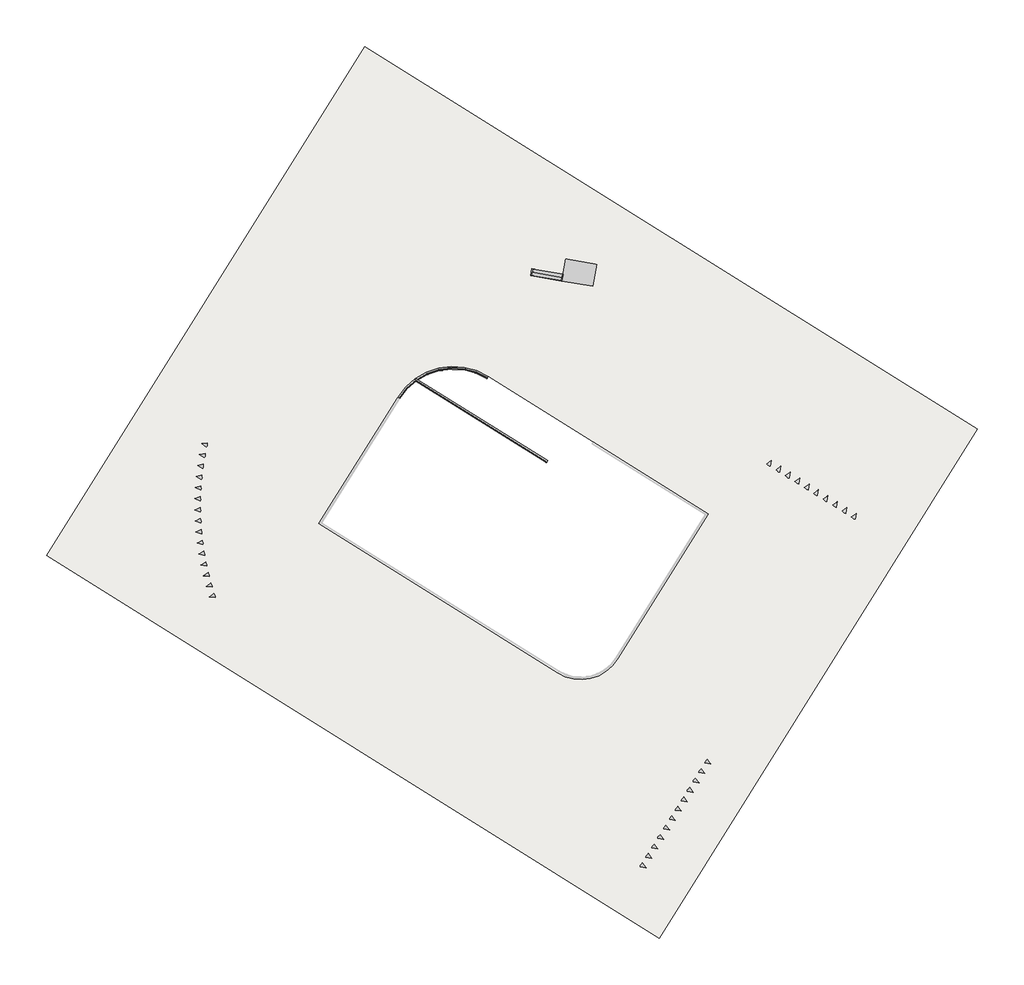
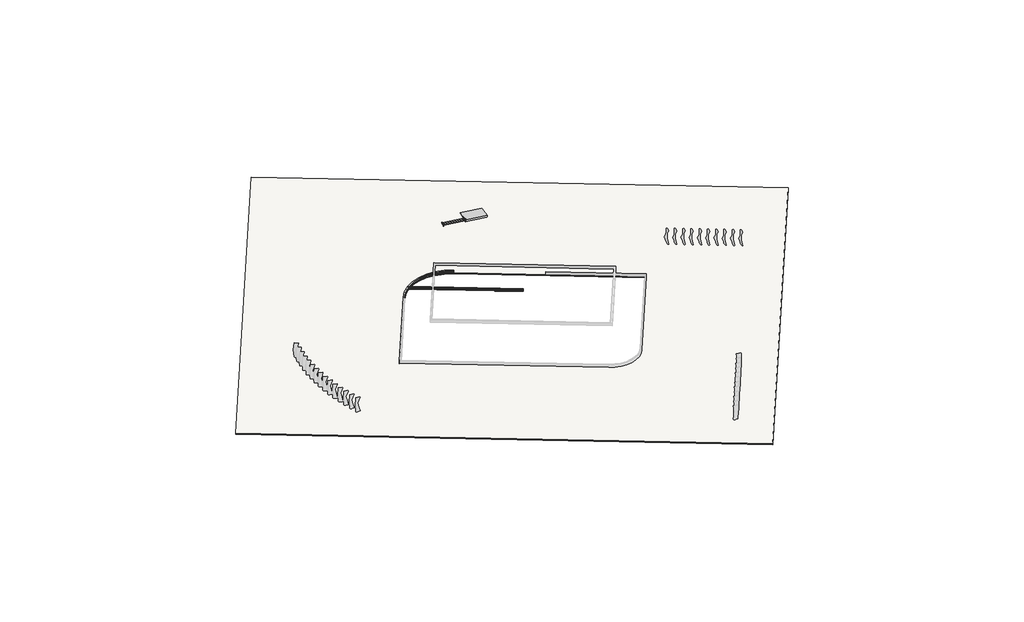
# One storey, part 2 of 2: 2 members, 2 proxies, 1 slab, 1 stair flight.
"""IFC4 building model written with IfcOpenShell, lengths in millimetres."""

from ifc_helpers import new_model, si_unit, point, frame, frame_2d, origin, place, context, project, spatial, polyline, circle_curve, ellipse_curve, trimmed, segment, composite_curve, outline, extrude, transform, mapped, element, save
from ifc_brep_helpers import plane_surface, cylinder_surface, revolved_surface, advanced_brep
from components import proxy_521487_521487_4b87c70a, stair_flight_50mm_tread_13mm_riser_88d25fb5

model = new_model("IFC4")

# Units and contexts
model_context = context("Model", 3, world=origin())
ifc_project = project(units=[si_unit("LENGTHUNIT", "METRE", prefix="MILLI")], contexts=[model_context])

# Site, building, storey
site = spatial("IfcSite", under=ifc_project)
building = spatial("IfcBuilding", under=site)
storey = spatial("IfcBuildingStorey", under=building, Name="\u200fمحوطه", Elevation=-300.0)

# Proxies
placement = place(None, origin())
proxy_521487_521487_shape = proxy_521487_521487_4b87c70a(model_context)
element("IfcBuildingElementProxy", 1, Name="521487 : 521487", ObjectType="521487 : 521487", at=placement, inside=storey, context=model_context, shape_type="MappedRepresentation", body=[
    mapped(proxy_521487_521487_shape, transform((0.0, 0.0, 0.0), x_axis=(1.0, 0.0, 0.0), y_axis=(0.0, 1.0, 0.0), z_axis=(0.0, 0.0, 1.0))),
])
element("IfcBuildingElementProxy", 2, Name="Slab Edge", ObjectType="Slab Edge", at=placement, inside=storey, context=model_context, shape_type="AdvancedBrep", body=[
    advanced_brep(
    [(22452.9728268, -22856.1682651, -298.6943652), (22344.4799576, -23029.7931497, -129.4403417), (22355.0834808, -23012.8239655, -49.7250187), (22360.1589587, -23004.7015029, -40.1471863), (22378.7841298, -22974.8949985, 44.7056275), (22378.7841298, -22974.8949985, 89.2842506), (22452.9728268, -22856.1682651, 89.2842506), (34308.7475235, -30264.4785162, -298.6943652), (34308.7475235, -30264.4785162, 89.2842506), (34234.5588265, -30383.2052496, 89.2842506), (34234.5588265, -30383.2052496, 44.7056275), (34215.9336554, -30413.011754, -40.1471863), (34210.8581775, -30421.1342166, -49.7250187), (34200.2546543, -30438.1034008, -129.4403417)],
    [
        (0, 1, circle_curve(frame((22466.2208084, -22834.9670627, -60.0), z_axis=(-0.848048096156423, 0.52991926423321, 0.0), x_axis=(-0.52991926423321, -0.848048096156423, 0.0)), 240.0)),
        (1, 2, circle_curve(frame((22385.0602412, -22964.8511207, -106.2935612), z_axis=(-0.848048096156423, 0.52991926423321, 0.0), x_axis=(-0.52991926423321, -0.848048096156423, 0.0)), 80.0)),
        (2, 3),
        (3, 4, circle_curve(frame((22315.1938181, -23076.6607701, 44.7056275), z_axis=(0.848048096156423, -0.52991926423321, 0.0), x_axis=(-0.52991926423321, -0.848048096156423, 0.0)), 120.0)),
        (4, 5),
        (5, 6),
        (6, 0),
        (7, 8),
        (8, 9),
        (9, 10),
        (10, 11, circle_curve(frame((34170.9685148, -30484.9710212, 44.7056275), z_axis=(-0.848048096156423, 0.52991926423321, 0.0), x_axis=(-0.52991926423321, -0.848048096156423, 0.0)), 120.0)),
        (11, 12),
        (12, 13, circle_curve(frame((34240.8349379, -30373.1613718, -106.2935612), z_axis=(0.848048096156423, -0.52991926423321, 0.0), x_axis=(-0.52991926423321, -0.848048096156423, 0.0)), 80.0)),
        (13, 7, circle_curve(frame((34321.9955051, -30243.2773138, -60.0), z_axis=(0.848048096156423, -0.52991926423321, 0.0), x_axis=(-0.52991926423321, -0.848048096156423, 0.0)), 240.0)),
        (0, 7),
        (13, 1),
        (12, 2),
        (11, 3),
        (10, 4),
        (9, 5),
        (8, 6),
    ],
    [
        plane_surface(frame((22452.9728268, -22856.1682651, -713.6933982), z_axis=(-0.8480480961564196, 0.5299192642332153, 0.0), x_axis=(0.5299192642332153, 0.8480480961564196, 0.0))),
        plane_surface(frame((34308.7475235, -30264.4785162, -713.6933982), z_axis=(0.8480480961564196, -0.5299192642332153, 0.0), x_axis=(0.5299192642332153, 0.8480480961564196, 0.0))),
        cylinder_surface(frame((22466.2208084, -22834.9670627, -60.0), z_axis=(-0.848048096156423, 0.52991926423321, 0.0), x_axis=(-0.52991926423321, -0.848048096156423, 0.0)), 240.0),
        cylinder_surface(frame((22385.0602412, -22964.8511207, -106.2935612), z_axis=(-0.848048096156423, 0.52991926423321, 0.0), x_axis=(-0.52991926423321, -0.848048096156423, 0.0)), 80.0),
        plane_surface(frame((22355.0834808, -23012.8239655, -49.7250187), z_axis=(-0.3747095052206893, -0.599660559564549, 0.7071067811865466), x_axis=(0.848048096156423, -0.52991926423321, 0.0))),
        revolved_surface(polyline([(34107.37820308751, -30586.736792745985, 44.7056275), (22251.603506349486, -23178.426541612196, 44.7056275)]), (22315.1938181, -23076.6607701, 44.7056275), (0.848048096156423, -0.52991926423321, 0.0)),
        plane_surface(frame((22378.7841298, -22974.8949985, 44.7056275), z_axis=(-0.52991926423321, -0.848048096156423, 0.0), x_axis=(0.848048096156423, -0.52991926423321, 0.0))),
        plane_surface(frame((22378.7841298, -22974.8949985, 89.2842506), z_axis=(0.0, 0.0, 1.0000000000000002), x_axis=(0.848048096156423, -0.52991926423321, 0.0))),
        plane_surface(frame((22452.9728268, -22856.1682651, 89.2842506), z_axis=(0.52991926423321, 0.848048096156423, 0.0), x_axis=(0.848048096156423, -0.52991926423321, 0.0))),
    ],
    [
        (0, [[1, 2, 3, 4, 5, 6, 7]]),
        (1, [[8, 9, 10, 11, 12, 13, 14]]),
        (2, [[-1, 15, -14, 16]]),
        (3, [[-2, -16, -13, 17]]),
        (4, [[-3, -17, -12, 18]]),
        (5, [[-4, -18, -11, 19]]),
        (6, [[-5, -19, -10, 20]]),
        (7, [[-6, -20, -9, 21]]),
        (8, [[-7, -21, -8, -15]]),
    ],
),
    advanced_brep(
    [(28968.3234538, -22682.3689368, -298.6943652), (28968.3234538, -22682.3689368, 89.2842506), (28894.1347568, -22801.0956702, 89.2842506), (28894.1347568, -22801.0956702, 44.7056275), (28875.5095858, -22830.9021746, -40.1471863), (28870.4341079, -22839.0246372, -49.7250187), (28859.8305847, -22855.9938214, -129.4403417), (21011.9409122, -24667.8219143, -129.4403417), (20838.3160275, -24559.3290451, -298.6943652), (20994.9717279, -24657.2183911, -49.7250187), (20986.8492654, -24652.1429132, -40.1471863), (20957.042761, -24633.5177421, 44.7056275), (20957.042761, -24633.5177421, 89.2842506), (20838.3160275, -24559.3290451, 89.2842506)],
    [
        (0, 1),
        (1, 2),
        (2, 3),
        (3, 4, circle_curve(frame((28830.5444451, -22902.8614418, 44.7056275), z_axis=(-0.8480480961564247, 0.529919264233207, 0.0), x_axis=(-0.529919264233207, -0.8480480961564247, 0.0)), 120.0)),
        (4, 5),
        (5, 6, circle_curve(frame((28900.4108683, -22791.0517924, -106.2935612), z_axis=(0.8480480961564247, -0.529919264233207, 0.0), x_axis=(-0.529919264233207, -0.8480480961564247, 0.0)), 80.0)),
        (6, 0, circle_curve(frame((28981.5714354, -22661.1677344, -60.0), z_axis=(0.8480480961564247, -0.529919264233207, 0.0), x_axis=(-0.529919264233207, -0.8480480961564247, 0.0)), 240.0)),
        (6, 7, circle_curve(frame((25841.7997949, -27685.8527041, -129.4403417), z_axis=(0.0, 0.0, 1.0), x_axis=(-0.8480480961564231, 0.5299192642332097, 0.0)), 5695.2652857)),
        (7, 8, circle_curve(frame((20817.1148251, -24546.0810635, -60.0), z_axis=(0.5299192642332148, 0.8480480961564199, 0.0), x_axis=(0.8480480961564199, -0.5299192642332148, 0.0)), 240.0)),
        (8, 0, circle_curve(frame((25841.7997949, -27685.8527041, -298.6943652), z_axis=(0.0, 0.0, -1.0), x_axis=(-0.8480480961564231, 0.5299192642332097, 0.0)), 5900.0)),
        (5, 9, circle_curve(frame((25841.7997949, -27685.8527041, -49.7250187), z_axis=(0.0, 0.0, 1.0), x_axis=(-0.8480480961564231, 0.5299192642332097, 0.0)), 5715.2749813)),
        (9, 7, circle_curve(frame((20946.9988832, -24627.2416307, -106.2935612), z_axis=(0.5299192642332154, 0.8480480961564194, 0.0), x_axis=(0.8480480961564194, -0.5299192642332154, 0.0)), 80.0)),
        (4, 10, circle_curve(frame((25841.7997949, -27685.8527041, -40.1471863), z_axis=(0.0, 0.0, 1.0), x_axis=(-0.8480480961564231, 0.5299192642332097, 0.0)), 5724.8528137)),
        (10, 9),
        (3, 11, circle_curve(frame((25841.7997949, -27685.8527041, 44.7056275), z_axis=(0.0, 0.0, 1.0), x_axis=(-0.8480480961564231, 0.5299192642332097, 0.0)), 5760.0)),
        (11, 10, circle_curve(frame((21058.8085325, -24697.1080538, 44.7056275), z_axis=(-0.5299192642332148, -0.8480480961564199, 0.0), x_axis=(0.8480480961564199, -0.5299192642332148, 0.0)), 120.0)),
        (2, 12, circle_curve(frame((25841.7997949, -27685.8527041, 89.2842506), z_axis=(0.0, 0.0, 1.0), x_axis=(-0.8480480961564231, 0.5299192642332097, 0.0)), 5760.0)),
        (12, 11),
        (1, 13, circle_curve(frame((25841.7997949, -27685.8527041, 89.2842506), z_axis=(0.0, 0.0, 1.0), x_axis=(-0.8480480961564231, 0.5299192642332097, 0.0)), 5900.0)),
        (13, 12),
        (8, 13),
    ],
    [
        plane_surface(frame((25841.7997949, -27685.8527041, -300.0), z_axis=(0.8480480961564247, -0.529919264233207, 0.0), x_axis=(0.529919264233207, 0.8480480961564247, 0.0))),
        revolved_surface(trimmed(ellipse_curve(frame((20817.1148251, -24546.0810635, -60.0), z_axis=(-0.5299192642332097, -0.8480480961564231, 0.0), x_axis=(0.8480480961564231, -0.5299192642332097, 0.0)), 240.0, 240.0), [point((20838.3160275, -24559.3290451, -298.6943652))], [point((21011.9409122, -24667.8219143, -129.4403417))], True, "CARTESIAN"), (25841.7997949, -27685.8527041, -300.0), (0.0, 0.0, -1.0)),
        revolved_surface(trimmed(ellipse_curve(frame((20946.9988832, -24627.2416307, -106.2935612), z_axis=(-0.5299192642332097, -0.8480480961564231, 0.0), x_axis=(0.8480480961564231, -0.5299192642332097, 0.0)), 80.0, 80.0), [point((21011.9409122, -24667.8219143, -129.4403417))], [point((20994.9717279, -24657.2183911, -49.7250187))], True, "CARTESIAN"), (25841.7997949, -27685.8527041, -300.0), (0.0, 0.0, -1.0)),
        revolved_surface(polyline([(20994.9717279, -24657.2183911, -49.7250187), (20986.8492654, -24652.1429132, -40.1471863)]), (25841.7997949, -27685.8527041, -300.0), (0.0, 0.0, -1.0)),
        revolved_surface(trimmed(ellipse_curve(frame((21058.8085325, -24697.1080538, 44.7056275), z_axis=(0.5299192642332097, 0.8480480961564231, 0.0), x_axis=(0.8480480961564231, -0.5299192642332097, 0.0)), 120.0, 120.0), [point((20986.8492654, -24652.1429132, -40.1471863))], [point((20957.042761, -24633.5177421, 44.7056275))], True, "CARTESIAN"), (25841.7997949, -27685.8527041, -300.0), (0.0, 0.0, -1.0)),
        revolved_surface(polyline([(20957.042761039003, -24633.517742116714, 44.70562749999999), (20957.042761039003, -24633.517742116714, 89.28425060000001)]), (25841.7997949, -27685.8527041, -300.0), (0.0, 0.0, -1.0)),
        plane_surface(frame((25841.7997949, -27685.8527041, 89.2842506), z_axis=(0.0, 0.0, 1.0), x_axis=(-0.8480480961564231, 0.5299192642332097, 0.0))),
        cylinder_surface(frame((25841.7997949, -27685.8527041, -300.0), z_axis=(0.0, 0.0, -1.0), x_axis=(-0.8480480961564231, 0.5299192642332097, 0.0)), 5900.0),
        plane_surface(frame((20838.3160275, -24559.3290451, -300.0), z_axis=(-0.5299192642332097, -0.8480480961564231, 0.0), x_axis=(-0.8480480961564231, 0.5299192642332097, 0.0))),
    ],
    [
        (0, [[1, 2, 3, 4, 5, 6, 7]]),
        (1, [[8, 9, 10, -7]]),
        (2, [[11, 12, -8, -6]]),
        (3, [[13, 14, -11, -5]]),
        (4, [[15, 16, -13, -4]]),
        (5, [[17, 18, -15, -3]]),
        (6, [[19, 20, -17, -2]]),
        (7, [[-10, 21, -19, -1]]),
        (8, [[-9, -12, -14, -16, -18, -20, -21]]),
    ],
),
])

# Members
element("IfcMember", 3, ObjectType="Stringer - 50mm Width", at=placement, inside=storey, context=model_context, shape_type="SweptSolid", body=[
    extrude(outline(polyline([(-66.2043293, -198.612988), (0.0, 0.0), (632.455532, 0.0), (503.0056495, -388.3496476), (-66.2043293, -198.612988)])), frame((35703.3036585, -13488.7421928, -90.6435283), z_axis=(-0.9847017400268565, 0.1742483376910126, 0.0), x_axis=(-0.16530648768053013, -0.9341700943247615, 0.316227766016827)), (0.0, 0.0, 1.0), 50.0),
])
element("IfcMember", 4, ObjectType="Stringer - 50mm Width", at=placement, inside=storey, context=model_context, shape_type="SweptSolid", body=[
    extrude(outline(polyline([(-66.2043293, -198.612988), (0.0, 0.0), (632.455532, 0.0), (503.0056495, -388.3496476), (-66.2043293, -198.612988)])), frame((32956.3149179, -13002.6475692, -90.6435283), z_axis=(-0.9847017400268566, 0.17424833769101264, 0.0), x_axis=(-0.16530648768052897, -0.9341700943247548, 0.3162277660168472)), (0.0, 0.0, 1.0), 50.0),
])

# Slab
element("IfcSlab", 5, ObjectType="Generic 150mm", at=placement, inside=storey, context=model_context, shape_type="SweptSolid", body=[
    extrude(outline(polyline([(44363.2360879, -73226.0361772), (-10759.8901622, -38781.284002), (17855.7501063, 7013.3131904), (72978.8763565, -27431.4389847), (44363.2360879, -73226.0361772)]), holes=[composite_curve([segment(trimmed(circle_curve(frame_2d((25841.7997949, -27685.8527041)), 5900.0), [point((28968.3234538, -22682.3689368))], [point((20838.3160275, -24559.3290451))], True, "CARTESIAN"), True, "CONTINUOUS"), segment(polyline([(20838.3160275, -24559.3290451), (13729.9790171, -35935.046207), (35225.3204534, -49366.8262793)]), True, "CONTINUOUS"), segment(trimmed(circle_curve(frame_2d((37292.0055839, -46059.4387043)), 3900.0), [point((35225.3204534, -49366.8262793))], [point((40599.3931589, -48126.1238348))], True, "CARTESIAN"), True, "CONTINUOUS"), segment(polyline([(40599.3931589, -48126.1238348), (48767.5686978, -35054.3104807), (28968.3234538, -22682.3689368)]), True, "CONTINUOUS")], self_intersect=False)]), frame((0.0, 0.0, -450.0), z_axis=(0.0, 0.0, 1.0), x_axis=(1.0, 0.0, 0.0)), (0.0, 0.0, 1.0), 150.0),
])

# Stair flight
stair_flight_50mm_tread_13mm_riser_shape = stair_flight_50mm_tread_13mm_riser_88d25fb5(model_context)
element("IfcStairFlight", 6, ObjectType="50mm Tread 13mm Riser", at=placement, inside=storey, context=model_context, shape_type="MappedRepresentation", body=[
    mapped(stair_flight_50mm_tread_13mm_riser_shape, transform((0.0, 0.0, 0.0), x_axis=(1.0, 0.0, 0.0), y_axis=(0.0, 1.0, 0.0), z_axis=(0.0, 0.0, 1.0))),
])

save(model, "model.ifc")
